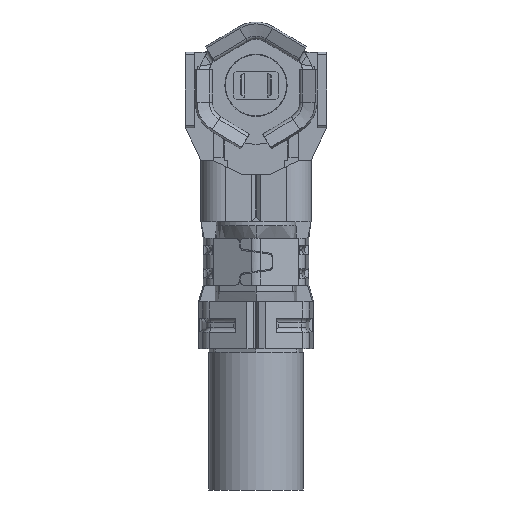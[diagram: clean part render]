
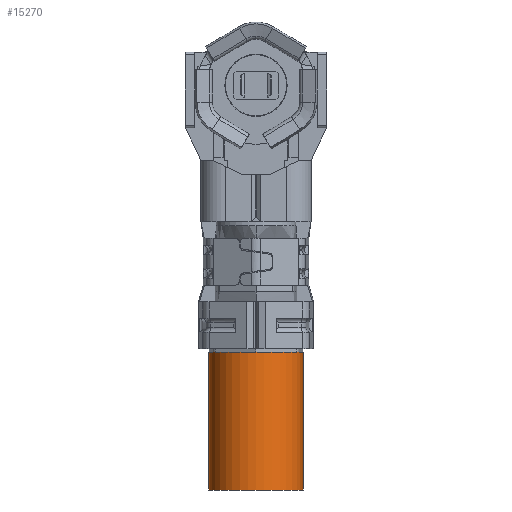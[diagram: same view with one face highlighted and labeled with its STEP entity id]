
A CAD part, front view. The second image highlights one B-rep face of the part: STEP entity #15270.
In plain terms, the highlighted cylindrical face has radius 1 mm (diameter 2 mm), a partial arc.
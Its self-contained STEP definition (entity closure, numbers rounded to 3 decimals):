
#397 = DIRECTION ( 'NONE',  ( -1., 0., 0. ) ) ;
#610 = DIRECTION ( 'NONE',  ( 0., 0., -1. ) ) ;
#1032 = VERTEX_POINT ( 'NONE', #4151 ) ;
#1045 = VECTOR ( 'NONE', #9222, 1000. ) ;
#1568 = CARTESIAN_POINT ( 'NONE',  ( 1., 1.88, -8.6 ) ) ;
#1805 = CYLINDRICAL_SURFACE ( 'NONE', #8352, 1. ) ;
#1864 = CARTESIAN_POINT ( 'NONE',  ( -1., 1.88, -2.842 ) ) ;
#2017 = ORIENTED_EDGE ( 'NONE', *, *, #8026, .F. ) ;
#2608 = VERTEX_POINT ( 'NONE', #1568 ) ;
#2876 = CARTESIAN_POINT ( 'NONE',  ( 0., 1.88, -5.67 ) ) ;
#3947 = VERTEX_POINT ( 'NONE', #15200 ) ;
#4134 = DIRECTION ( 'NONE',  ( 1., 0., 0. ) ) ;
#4151 = CARTESIAN_POINT ( 'NONE',  ( 1., 1.88, -5.67 ) ) ;
#4695 = AXIS2_PLACEMENT_3D ( 'NONE', #14553, #6999, #15809 ) ;
#5174 = ORIENTED_EDGE ( 'NONE', *, *, #6188, .F. ) ;
#5611 = VECTOR ( 'NONE', #610, 1000. ) ;
#6188 = EDGE_CURVE ( 'NONE', #2608, #3947, #8157, .T. ) ;
#6676 = ORIENTED_EDGE ( 'NONE', *, *, #14167, .T. ) ;
#6932 = LINE ( 'NONE', #8266, #1045 ) ;
#6999 = DIRECTION ( 'NONE',  ( 0., 0., -1. ) ) ;
#7121 = EDGE_CURVE ( 'NONE', #10167, #1032, #7336, .T. ) ;
#7336 = CIRCLE ( 'NONE', #15023, 1. ) ;
#7925 = CARTESIAN_POINT ( 'NONE',  ( 0., 1.88, -2.842 ) ) ;
#8026 = EDGE_CURVE ( 'NONE', #1032, #2608, #6932, .T. ) ;
#8157 = CIRCLE ( 'NONE', #4695, 1. ) ;
#8266 = CARTESIAN_POINT ( 'NONE',  ( 1., 1.88, -2.842 ) ) ;
#8352 = AXIS2_PLACEMENT_3D ( 'NONE', #7925, #9150, #397 ) ;
#9150 = DIRECTION ( 'NONE',  ( 0., 0., -1. ) ) ;
#9222 = DIRECTION ( 'NONE',  ( 0., 0., -1. ) ) ;
#10167 = VERTEX_POINT ( 'NONE', #11423 ) ;
#11423 = CARTESIAN_POINT ( 'NONE',  ( -1., 1.88, -5.67 ) ) ;
#11629 = DIRECTION ( 'NONE',  ( 0., 0., 1. ) ) ;
#12632 = LINE ( 'NONE', #1864, #5611 ) ;
#13855 = EDGE_LOOP ( 'NONE', ( #2017, #15972, #6676, #5174 ) ) ;
#14167 = EDGE_CURVE ( 'NONE', #10167, #3947, #12632, .T. ) ;
#14553 = CARTESIAN_POINT ( 'NONE',  ( 0., 1.88, -8.6 ) ) ;
#15023 = AXIS2_PLACEMENT_3D ( 'NONE', #2876, #11629, #4134 ) ;
#15200 = CARTESIAN_POINT ( 'NONE',  ( -1., 1.88, -8.6 ) ) ;
#15270 = ADVANCED_FACE ( 'NONE', ( #15607 ), #1805, .T. ) ;
#15607 = FACE_OUTER_BOUND ( 'NONE', #13855, .T. ) ;
#15809 = DIRECTION ( 'NONE',  ( -1., 0., 0. ) ) ;
#15972 = ORIENTED_EDGE ( 'NONE', *, *, #7121, .F. ) ;
